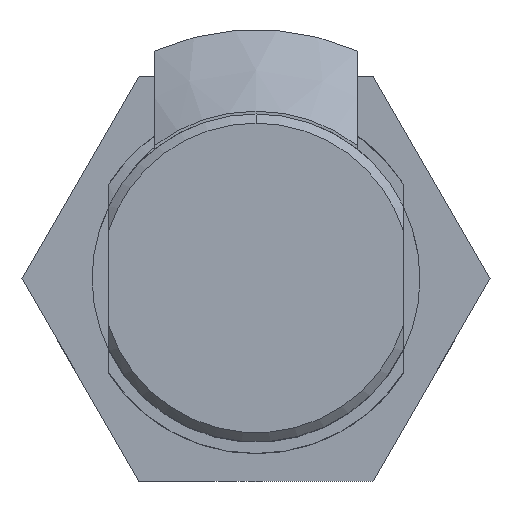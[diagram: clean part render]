
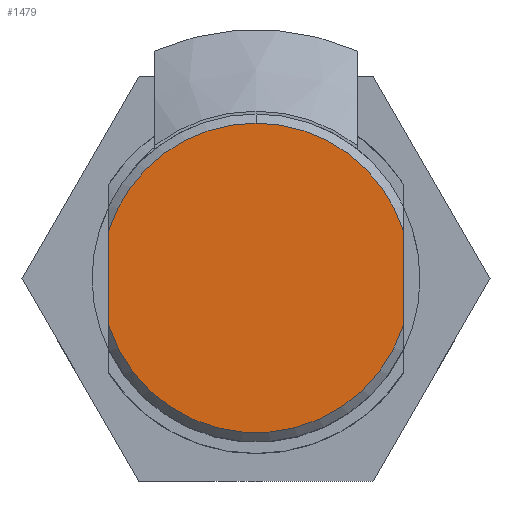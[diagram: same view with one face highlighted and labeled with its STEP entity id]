
A CAD part, top view. The second image highlights one B-rep face of the part: STEP entity #1479.
In plain terms, the highlighted planar face has unit normal (0, 0, 1).
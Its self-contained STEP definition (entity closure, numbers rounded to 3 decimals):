
#285 = ORIENTED_EDGE ( 'NONE', *, *, #4383, .T. ) ;
#603 = CIRCLE ( 'NONE', #1543, 8.4 ) ;
#981 = CARTESIAN_POINT ( 'NONE',  ( 0., 0., 30. ) ) ;
#1479 = ADVANCED_FACE ( 'NONE', ( #8883 ), #4044, .T. ) ;
#1543 = AXIS2_PLACEMENT_3D ( 'NONE', #3926, #12499, #5140 ) ;
#1641 = CARTESIAN_POINT ( 'NONE',  ( 0., 0., 30. ) ) ;
#1681 = CARTESIAN_POINT ( 'NONE',  ( -8., -21.854, 30. ) ) ;
#2216 = DIRECTION ( 'NONE',  ( 0., 1., 0. ) ) ;
#2681 = CARTESIAN_POINT ( 'NONE',  ( 8., 2.561, 30. ) ) ;
#2880 = DIRECTION ( 'NONE',  ( 1., 0., 0. ) ) ;
#3013 = CARTESIAN_POINT ( 'NONE',  ( 0., 0., 30. ) ) ;
#3677 = ORIENTED_EDGE ( 'NONE', *, *, #5393, .T. ) ;
#3797 = ORIENTED_EDGE ( 'NONE', *, *, #12813, .F. ) ;
#3923 = VERTEX_POINT ( 'NONE', #7381 ) ;
#3926 = CARTESIAN_POINT ( 'NONE',  ( 0., 0., 30. ) ) ;
#4044 = PLANE ( 'NONE',  #14925 ) ;
#4059 = LINE ( 'NONE', #1681, #10192 ) ;
#4226 = DIRECTION ( 'NONE',  ( 0., 1., 0. ) ) ;
#4383 = EDGE_CURVE ( 'NONE', #13813, #15310, #6481, .T. ) ;
#5140 = DIRECTION ( 'NONE',  ( 0., 1., 0. ) ) ;
#5393 = EDGE_CURVE ( 'NONE', #7529, #13813, #11231, .T. ) ;
#6308 = ORIENTED_EDGE ( 'NONE', *, *, #13534, .F. ) ;
#6481 = CIRCLE ( 'NONE', #11643, 8.4 ) ;
#6700 = CARTESIAN_POINT ( 'NONE',  ( 8., -21.854, 30. ) ) ;
#7119 = AXIS2_PLACEMENT_3D ( 'NONE', #3013, #11573, #4226 ) ;
#7129 = VERTEX_POINT ( 'NONE', #9222 ) ;
#7381 = CARTESIAN_POINT ( 'NONE',  ( 8., -2.561, 30. ) ) ;
#7529 = VERTEX_POINT ( 'NONE', #2681 ) ;
#7671 = EDGE_LOOP ( 'NONE', ( #11151, #3677, #285, #3797, #6308 ) ) ;
#8883 = FACE_OUTER_BOUND ( 'NONE', #7671, .T. ) ;
#9222 = CARTESIAN_POINT ( 'NONE',  ( -8., -2.561, 30. ) ) ;
#9433 = VECTOR ( 'NONE', #11652, 1000. ) ;
#9534 = DIRECTION ( 'NONE',  ( 0., 0., 1. ) ) ;
#10192 = VECTOR ( 'NONE', #11490, 1000. ) ;
#10203 = DIRECTION ( 'NONE',  ( 0., 0., 1. ) ) ;
#11151 = ORIENTED_EDGE ( 'NONE', *, *, #13133, .F. ) ;
#11231 = CIRCLE ( 'NONE', #7119, 8.4 ) ;
#11490 = DIRECTION ( 'NONE',  ( 0., 1., 0. ) ) ;
#11573 = DIRECTION ( 'NONE',  ( 0., 0., 1. ) ) ;
#11643 = AXIS2_PLACEMENT_3D ( 'NONE', #981, #9534, #2216 ) ;
#11652 = DIRECTION ( 'NONE',  ( 0., -1., 0. ) ) ;
#12499 = DIRECTION ( 'NONE',  ( 0., 0., -1. ) ) ;
#12813 = EDGE_CURVE ( 'NONE', #7129, #15310, #4059, .T. ) ;
#13133 = EDGE_CURVE ( 'NONE', #7529, #3923, #13463, .T. ) ;
#13463 = LINE ( 'NONE', #6700, #9433 ) ;
#13534 = EDGE_CURVE ( 'NONE', #3923, #7129, #603, .T. ) ;
#13813 = VERTEX_POINT ( 'NONE', #14082 ) ;
#14082 = CARTESIAN_POINT ( 'NONE',  ( 0., 8.4, 30. ) ) ;
#14546 = CARTESIAN_POINT ( 'NONE',  ( -8., 2.561, 30. ) ) ;
#14925 = AXIS2_PLACEMENT_3D ( 'NONE', #1641, #10203, #2880 ) ;
#15310 = VERTEX_POINT ( 'NONE', #14546 ) ;
